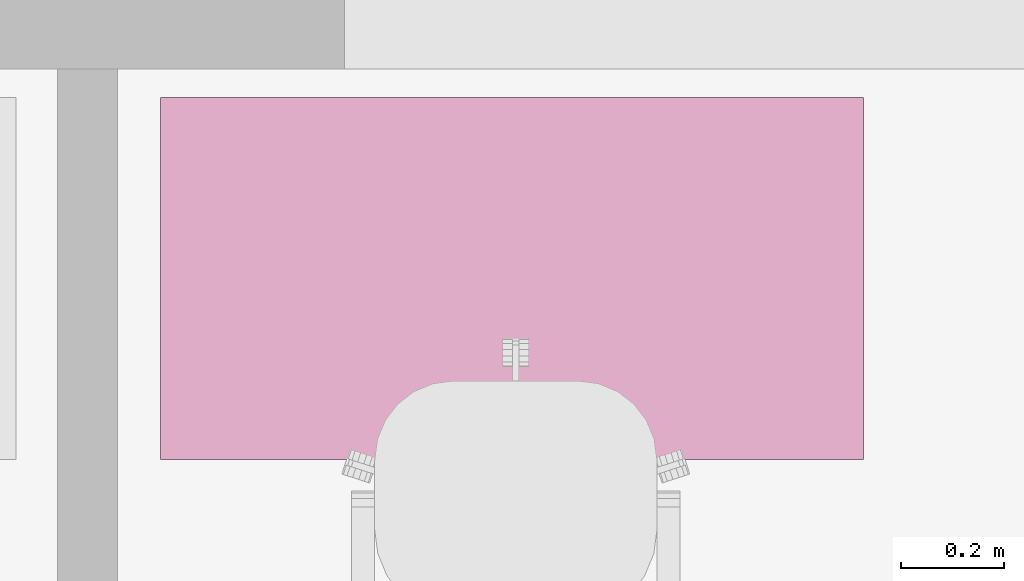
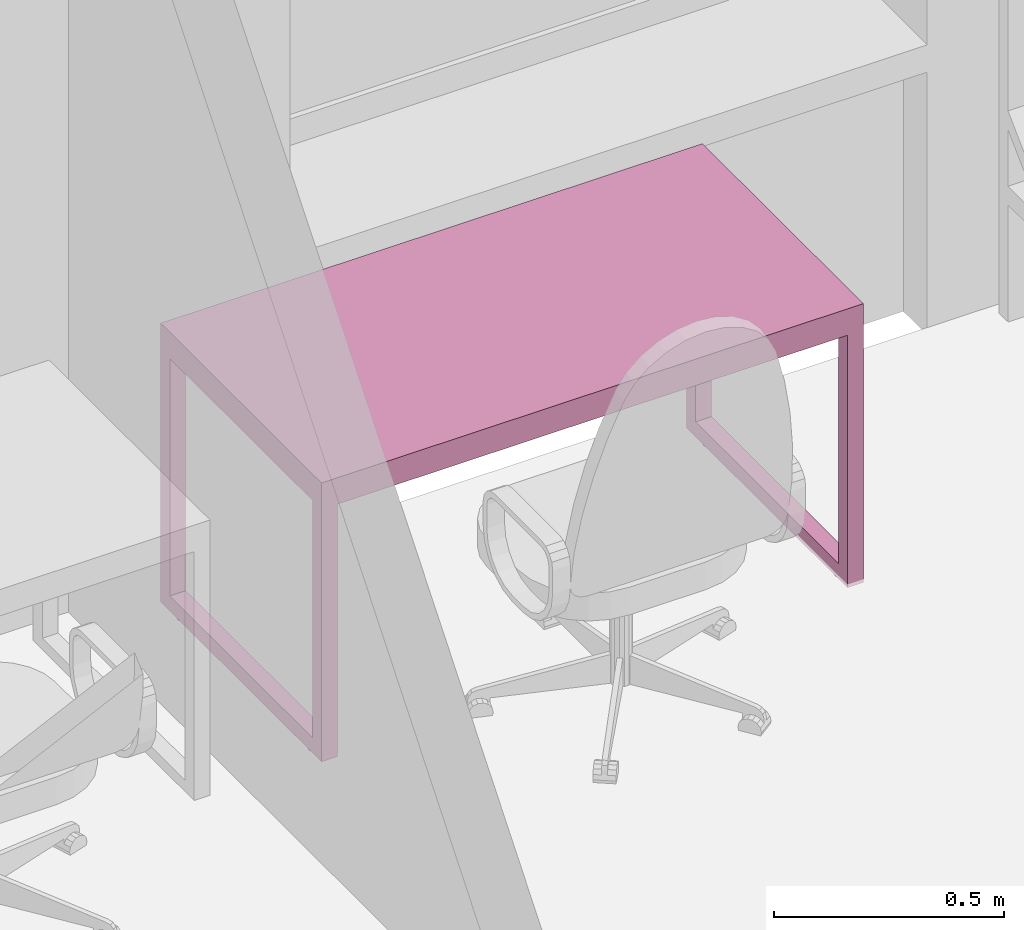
# One storey, part 28 of 48: 1 furnishing.
"""IFC2X3 building model written with IfcOpenShell, lengths in millimetres."""

from ifc_helpers import new_model, entity, si_unit, converted_unit, derived_unit, direction, frame, origin, place, context, subcontext, project, spatial, faceted_brep, source, transform, mapped, material, material_list, type_object, type_shapes, element, save


model = new_model("IFC2X3")

# Units and contexts
model_context = context("Model", 3, precision=0.01, world=origin(), true_north=direction((6.12303176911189e-17, 1.0)))
body_context = subcontext(model_context, "Body", "Model", "MODEL_VIEW")
ifc_project = project(units=[si_unit("LENGTHUNIT", "METRE", prefix="MILLI"), si_unit("AREAUNIT", "SQUARE_METRE"), si_unit("VOLUMEUNIT", "CUBIC_METRE"), converted_unit("PLANEANGLEUNIT", "DEGREE", entity("IfcRatioMeasure", 0.0174532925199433), si_unit("PLANEANGLEUNIT", "RADIAN"), dimensions=[0, 0, 0, 0, 0, 0, 0]), si_unit("MASSUNIT", "GRAM", prefix="KILO"), derived_unit("MASSDENSITYUNIT", [(si_unit("MASSUNIT", "GRAM", prefix="KILO"), 1), (si_unit("LENGTHUNIT", "METRE"), -3)]), si_unit("TIMEUNIT", "SECOND"), si_unit("FREQUENCYUNIT", "HERTZ"), si_unit("THERMODYNAMICTEMPERATUREUNIT", "DEGREE_CELSIUS"), derived_unit("THERMALTRANSMITTANCEUNIT", [(si_unit("MASSUNIT", "GRAM", prefix="KILO"), 1), (si_unit("THERMODYNAMICTEMPERATUREUNIT", "KELVIN"), -1), (si_unit("TIMEUNIT", "SECOND"), -3)]), derived_unit("VOLUMETRICFLOWRATEUNIT", [(si_unit("LENGTHUNIT", "METRE"), 3), (si_unit("TIMEUNIT", "SECOND"), -1)]), si_unit("ELECTRICCURRENTUNIT", "AMPERE"), si_unit("ELECTRICVOLTAGEUNIT", "VOLT"), si_unit("POWERUNIT", "WATT"), si_unit("FORCEUNIT", "NEWTON", prefix="KILO"), si_unit("ILLUMINANCEUNIT", "LUX"), si_unit("LUMINOUSFLUXUNIT", "LUMEN"), si_unit("LUMINOUSINTENSITYUNIT", "CANDELA"), derived_unit("USERDEFINED", [(si_unit("MASSUNIT", "GRAM", prefix="KILO"), -1), (si_unit("LENGTHUNIT", "METRE"), -2), (si_unit("TIMEUNIT", "SECOND"), 3), (si_unit("LUMINOUSFLUXUNIT", "LUMEN"), 1)]), derived_unit("LINEARVELOCITYUNIT", [(si_unit("LENGTHUNIT", "METRE"), 1), (si_unit("TIMEUNIT", "SECOND"), -1)]), si_unit("PRESSUREUNIT", "PASCAL"), derived_unit("USERDEFINED", [(si_unit("LENGTHUNIT", "METRE"), -2), (si_unit("MASSUNIT", "GRAM", prefix="KILO"), 1), (si_unit("TIMEUNIT", "SECOND"), -2)]), derived_unit("LINEARFORCEUNIT", [(si_unit("MASSUNIT", "GRAM", prefix="KILO"), 1), (si_unit("LENGTHUNIT", "METRE"), 1), (si_unit("TIMEUNIT", "SECOND"), -2), (si_unit("LENGTHUNIT", "METRE"), -1)]), derived_unit("PLANARFORCEUNIT", [(si_unit("MASSUNIT", "GRAM", prefix="KILO"), 1), (si_unit("LENGTHUNIT", "METRE"), 1), (si_unit("TIMEUNIT", "SECOND"), -2), (si_unit("LENGTHUNIT", "METRE"), -2)])], contexts=[model_context])

# Site, building, storey, space
site_placement = place(None, origin())
site = spatial("IfcSite", under=ifc_project, at=site_placement, Name="Default", CompositionType="ELEMENT")
building_placement = place(site_placement, origin())
building = spatial("IfcBuilding", under=site, at=building_placement, Name="SMA ARH", CompositionType="ELEMENT")
storey_placement = place(building_placement, frame((0.0, 0.0, 6600.0)))
storey = spatial("IfcBuildingStorey", under=building, at=storey_placement, Name="3 Korrus", CompositionType="ELEMENT", Elevation=6599.99999999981)
space_placement = place(storey_placement, origin())
space = spatial("IfcSpace", under=storey, at=space_placement, Name="3-20/2", CompositionType="ELEMENT", InteriorOrExteriorSpace="INTERNAL")

# Furnishing
ifc_material = material(Name="<Unnamed>")
ifc_material_list = material_list([ifc_material, ifc_material])
furniture_type = type_object("IfcFurnitureType", Name="kirjutuslaud 1360x700mm:kirjutuslaud 1360x700mm", material=ifc_material_list)
shared_shape = source(origin(), body_context, "Body", "Brep", [
    faceted_brep([(680.0, -350.0, 720.0), (680.0, 350.0, 720.0), (680.0, 350.0, 750.0), (680.0, -350.0, 750.0), (-680.0, -350.0, 720.0), (-680.0, -350.0, 750.0), (-680.0, 350.0, 750.0), (-680.0, 350.0, 720.0)], [[[0, 1, 2, 3]], [[4, 5, 6, 7]], [[1, 0, 4, 7]], [[2, 1, 7, 6]], [[3, 2, 6, 5]], [[0, 3, 5, 4]]]),
    faceted_brep([(-640.0, -310.0, 680.0), (-640.0, 310.0, 680.0), (-640.0, 310.0, 720.0), (-640.0, -310.0, 720.0), (-680.0, -350.0, 720.0), (-680.0, 350.0, 720.0), (-680.0, 350.0, 10.0), (-680.0, -350.0, 10.0), (-680.0, 310.0, 680.0), (-680.0, -310.0, 680.0), (-680.0, -310.0, 50.0), (-680.0, 310.0, 50.0), (-640.0, -350.0, 10.0), (-640.0, -350.0, 680.0), (640.0, -350.0, 680.0), (640.0, -350.0, 10.0), (680.0, -350.0, 10.0), (680.0, -350.0, 720.0), (-640.0, 350.0, 10.0), (680.0, 350.0, 720.0), (680.0, 350.0, 10.0), (640.0, 350.0, 10.0), (640.0, 350.0, 680.0), (-640.0, 350.0, 680.0), (640.0, 310.0, 720.0), (640.0, -310.0, 720.0), (-640.0, 310.0, 50.0), (-640.0, -310.0, 50.0), (640.0, -310.0, 680.0), (640.0, 310.0, 680.0), (680.0, 310.0, 680.0), (680.0, 310.0, 50.0), (680.0, -310.0, 50.0), (680.0, -310.0, 680.0), (640.0, -310.0, 50.0), (640.0, 310.0, 50.0)], [[[0, 1, 2, 3]], [[4, 5, 6, 7], [8, 9, 10, 11]], [[4, 7, 12, 13, 14, 15, 16, 17]], [[18, 12, 7, 6]], [[6, 5, 19, 20, 21, 22, 23, 18]], [[19, 5, 4, 17], [2, 24, 25, 3]], [[26, 1, 8, 11]], [[27, 26, 11, 10]], [[0, 27, 10, 9]], [[1, 0, 9, 8]], [[14, 13, 0, 28]], [[24, 2, 1, 29]], [[3, 25, 28, 0]], [[17, 16, 20, 19], [30, 31, 32, 33]], [[21, 15, 14, 28, 34, 35, 29, 22]], [[20, 16, 15, 21]], [[31, 30, 29, 35]], [[32, 31, 35, 34]], [[33, 32, 34, 28]], [[30, 33, 28, 29]], [[29, 28, 25, 24]], [[29, 1, 23, 22]], [[12, 18, 23, 1, 26, 27, 0, 13]]]),
    faceted_brep([(-663.729456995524, -270.466136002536, 0.0), (-659.847171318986, -269.955023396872, 0.0), (-655.964885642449, -270.466136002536, 0.0), (-652.347171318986, -271.964642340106, 0.0), (-649.240569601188, -274.348421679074, 0.0), (-646.85679026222, -277.455023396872, 0.0), (-645.35828392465, -281.072737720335, 0.0), (-644.847171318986, -284.955023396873, 0.0), (-645.35828392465, -288.83730907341, 0.0), (-646.85679026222, -292.455023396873, 0.0), (-649.240569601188, -295.561625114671, 0.0), (-652.347171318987, -297.945404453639, 0.0), (-655.964885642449, -299.443910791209, 0.0), (-659.847171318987, -299.955023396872, 0.0), (-663.729456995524, -299.443910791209, 0.0), (-667.347171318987, -297.945404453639, 0.0), (-670.453773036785, -295.561625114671, 0.0), (-672.837552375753, -292.455023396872, 0.0), (-674.336058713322, -288.83730907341, 0.0), (-674.847171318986, -284.955023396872, 0.0), (-674.336058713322, -281.072737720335, 0.0), (-672.837552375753, -277.455023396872, 0.0), (-670.453773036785, -274.348421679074, 0.0), (-667.347171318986, -271.964642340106, 0.0), (-655.964885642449, -299.443910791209, 10.0), (-652.347171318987, -297.945404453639, 10.0), (-649.240569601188, -295.561625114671, 10.0), (-646.85679026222, -292.455023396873, 10.0), (-645.35828392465, -288.83730907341, 10.0), (-644.847171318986, -284.955023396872, 10.0), (-645.35828392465, -281.072737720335, 10.0), (-646.85679026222, -277.455023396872, 10.0), (-649.240569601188, -274.348421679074, 10.0), (-652.347171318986, -271.964642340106, 10.0), (-655.964885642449, -270.466136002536, 10.0), (-659.847171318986, -269.955023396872, 10.0), (-663.729456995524, -270.466136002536, 10.0), (-667.347171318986, -271.964642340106, 10.0), (-670.453773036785, -274.348421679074, 10.0), (-672.837552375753, -277.455023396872, 10.0), (-674.336058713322, -281.072737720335, 10.0), (-674.847171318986, -284.955023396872, 10.0), (-674.336058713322, -288.83730907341, 10.0), (-672.837552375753, -292.455023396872, 10.0), (-670.453773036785, -295.561625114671, 10.0), (-667.347171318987, -297.945404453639, 10.0), (-663.729456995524, -299.443910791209, 10.0), (-659.847171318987, -299.955023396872, 10.0)], [[[0, 1, 2, 3, 4, 5, 6, 7, 8, 9, 10, 11, 12, 13, 14, 15, 16, 17, 18, 19, 20, 21, 22, 23]], [[24, 25, 26, 27, 28, 29, 30, 31, 32, 33, 34, 35, 36, 37, 38, 39, 40, 41, 42, 43, 44, 45, 46, 47]], [[18, 42, 41, 19]], [[17, 43, 42, 18]], [[45, 44, 16, 15]], [[17, 16, 44, 43]], [[46, 45, 15, 14]], [[47, 46, 14, 13]], [[12, 24, 47, 13]], [[11, 25, 24, 12]], [[27, 26, 10, 9]], [[11, 10, 26, 25]], [[28, 27, 9, 8]], [[29, 28, 8, 7]], [[6, 30, 29, 7]], [[5, 31, 30, 6]], [[33, 32, 4, 3]], [[5, 4, 32, 31]], [[34, 33, 3, 2]], [[35, 34, 2, 1]], [[0, 36, 35, 1]], [[23, 37, 36, 0]], [[39, 38, 22, 21]], [[23, 22, 38, 37]], [[40, 39, 21, 20]], [[41, 40, 20, 19]]]),
    faceted_brep([(-655.964885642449, 270.466136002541, 10.0), (-652.347171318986, 271.964642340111, 10.0), (-649.240569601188, 274.348421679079, 10.0), (-646.85679026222, 277.455023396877, 10.0), (-645.35828392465, 281.07273772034, 10.0), (-644.847171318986, 284.955023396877, 10.0), (-645.35828392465, 288.837309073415, 10.0), (-646.85679026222, 292.455023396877, 10.0), (-649.240569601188, 295.561625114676, 10.0), (-652.347171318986, 297.945404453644, 10.0), (-655.964885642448, 299.443910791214, 10.0), (-659.847171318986, 299.955023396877, 10.0), (-663.729456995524, 299.443910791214, 10.0), (-667.347171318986, 297.945404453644, 10.0), (-670.453773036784, 295.561625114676, 10.0), (-672.837552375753, 292.455023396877, 10.0), (-674.336058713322, 288.837309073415, 10.0), (-674.847171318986, 284.955023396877, 10.0), (-674.336058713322, 281.07273772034, 10.0), (-672.837552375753, 277.455023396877, 10.0), (-670.453773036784, 274.348421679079, 10.0), (-667.347171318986, 271.964642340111, 10.0), (-663.729456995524, 270.466136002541, 10.0), (-659.847171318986, 269.955023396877, 10.0), (-655.964885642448, 299.443910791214, 0.0), (-652.347171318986, 297.945404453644, 0.0), (-649.240569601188, 295.561625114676, 0.0), (-646.85679026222, 292.455023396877, 0.0), (-645.35828392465, 288.837309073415, 0.0), (-644.847171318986, 284.955023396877, 0.0), (-645.35828392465, 281.07273772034, 0.0), (-646.85679026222, 277.455023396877, 0.0), (-649.240569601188, 274.348421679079, 0.0), (-652.347171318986, 271.964642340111, 0.0), (-655.964885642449, 270.466136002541, 0.0), (-659.847171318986, 269.955023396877, 0.0), (-663.729456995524, 270.466136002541, 0.0), (-667.347171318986, 271.964642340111, 0.0), (-670.453773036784, 274.348421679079, 0.0), (-672.837552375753, 277.455023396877, 0.0), (-674.336058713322, 281.07273772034, 0.0), (-674.847171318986, 284.955023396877, 0.0), (-674.336058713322, 288.837309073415, 0.0), (-672.837552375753, 292.455023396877, 0.0), (-670.453773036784, 295.561625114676, 0.0), (-667.347171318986, 297.945404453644, 0.0), (-663.729456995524, 299.443910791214, 0.0), (-659.847171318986, 299.955023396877, 0.0)], [[[0, 1, 2, 3, 4, 5, 6, 7, 8, 9, 10, 11, 12, 13, 14, 15, 16, 17, 18, 19, 20, 21, 22, 23]], [[24, 25, 26, 27, 28, 29, 30, 31, 32, 33, 34, 35, 36, 37, 38, 39, 40, 41, 42, 43, 44, 45, 46, 47]], [[40, 18, 17, 41]], [[39, 19, 18, 40]], [[21, 20, 38, 37]], [[39, 38, 20, 19]], [[22, 21, 37, 36]], [[23, 22, 36, 35]], [[34, 0, 23, 35]], [[33, 1, 0, 34]], [[3, 2, 32, 31]], [[33, 32, 2, 1]], [[4, 3, 31, 30]], [[5, 4, 30, 29]], [[28, 6, 5, 29]], [[27, 7, 6, 28]], [[9, 8, 26, 25]], [[27, 26, 8, 7]], [[10, 9, 25, 24]], [[11, 10, 24, 47]], [[46, 12, 11, 47]], [[45, 13, 12, 46]], [[15, 14, 44, 43]], [[45, 44, 14, 13]], [[16, 15, 43, 42]], [[17, 16, 42, 41]]]),
    faceted_brep([(656.270543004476, -270.466136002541, 0.0), (660.152828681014, -269.955023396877, 0.0), (664.035114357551, -270.466136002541, 0.0), (667.652828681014, -271.96464234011, 0.0), (670.759430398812, -274.348421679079, 0.0), (673.14320973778, -277.455023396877, 0.0), (674.64171607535, -281.072737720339, 0.0), (675.152828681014, -284.955023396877, 0.0), (674.64171607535, -288.837309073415, 0.0), (673.14320973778, -292.455023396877, 0.0), (670.759430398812, -295.561625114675, 0.0), (667.652828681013, -297.945404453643, 0.0), (664.035114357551, -299.443910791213, 0.0), (660.152828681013, -299.955023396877, 0.0), (656.270543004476, -299.443910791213, 0.0), (652.652828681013, -297.945404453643, 0.0), (649.546226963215, -295.561625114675, 0.0), (647.162447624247, -292.455023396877, 0.0), (645.663941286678, -288.837309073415, 0.0), (645.152828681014, -284.955023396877, 0.0), (645.663941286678, -281.072737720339, 0.0), (647.162447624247, -277.455023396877, 0.0), (649.546226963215, -274.348421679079, 0.0), (652.652828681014, -271.96464234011, 0.0), (664.035114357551, -299.443910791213, 10.0), (667.652828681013, -297.945404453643, 10.0), (670.759430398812, -295.561625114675, 10.0), (673.14320973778, -292.455023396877, 10.0), (674.64171607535, -288.837309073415, 10.0), (675.152828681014, -284.955023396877, 10.0), (674.64171607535, -281.072737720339, 10.0), (673.14320973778, -277.455023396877, 10.0), (670.759430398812, -274.348421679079, 10.0), (667.652828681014, -271.96464234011, 10.0), (664.035114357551, -270.466136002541, 10.0), (660.152828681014, -269.955023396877, 10.0), (656.270543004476, -270.466136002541, 10.0), (652.652828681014, -271.96464234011, 10.0), (649.546226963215, -274.348421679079, 10.0), (647.162447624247, -277.455023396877, 10.0), (645.663941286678, -281.072737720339, 10.0), (645.152828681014, -284.955023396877, 10.0), (645.663941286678, -288.837309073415, 10.0), (647.162447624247, -292.455023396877, 10.0), (649.546226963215, -295.561625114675, 10.0), (652.652828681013, -297.945404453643, 10.0), (656.270543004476, -299.443910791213, 10.0), (660.152828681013, -299.955023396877, 10.0)], [[[0, 1, 2, 3, 4, 5, 6, 7, 8, 9, 10, 11, 12, 13, 14, 15, 16, 17, 18, 19, 20, 21, 22, 23]], [[24, 25, 26, 27, 28, 29, 30, 31, 32, 33, 34, 35, 36, 37, 38, 39, 40, 41, 42, 43, 44, 45, 46, 47]], [[18, 42, 41, 19]], [[17, 43, 42, 18]], [[45, 44, 16, 15]], [[17, 16, 44, 43]], [[46, 45, 15, 14]], [[47, 46, 14, 13]], [[12, 24, 47, 13]], [[11, 25, 24, 12]], [[27, 26, 10, 9]], [[11, 10, 26, 25]], [[28, 27, 9, 8]], [[29, 28, 8, 7]], [[6, 30, 29, 7]], [[5, 31, 30, 6]], [[33, 32, 4, 3]], [[5, 4, 32, 31]], [[34, 33, 3, 2]], [[35, 34, 2, 1]], [[0, 36, 35, 1]], [[23, 37, 36, 0]], [[39, 38, 22, 21]], [[23, 22, 38, 37]], [[40, 39, 21, 20]], [[41, 40, 20, 19]]]),
    faceted_brep([(664.035114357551, 270.466136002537, 10.0), (667.652828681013, 271.964642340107, 10.0), (670.759430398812, 274.348421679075, 10.0), (673.14320973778, 277.455023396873, 10.0), (674.64171607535, 281.072737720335, 10.0), (675.152828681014, 284.955023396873, 10.0), (674.64171607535, 288.837309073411, 10.0), (673.14320973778, 292.455023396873, 10.0), (670.759430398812, 295.561625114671, 10.0), (667.652828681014, 297.94540445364, 10.0), (664.035114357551, 299.443910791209, 10.0), (660.152828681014, 299.955023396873, 10.0), (656.270543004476, 299.443910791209, 10.0), (652.652828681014, 297.94540445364, 10.0), (649.546226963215, 295.561625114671, 10.0), (647.162447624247, 292.455023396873, 10.0), (645.663941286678, 288.837309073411, 10.0), (645.152828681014, 284.955023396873, 10.0), (645.663941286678, 281.072737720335, 10.0), (647.162447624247, 277.455023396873, 10.0), (649.546226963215, 274.348421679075, 10.0), (652.652828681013, 271.964642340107, 10.0), (656.270543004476, 270.466136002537, 10.0), (660.152828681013, 269.955023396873, 10.0), (664.035114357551, 299.443910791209, 0.0), (667.652828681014, 297.94540445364, 0.0), (670.759430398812, 295.561625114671, 0.0), (673.14320973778, 292.455023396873, 0.0), (674.64171607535, 288.837309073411, 0.0), (675.152828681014, 284.955023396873, 0.0), (674.64171607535, 281.072737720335, 0.0), (673.14320973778, 277.455023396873, 0.0), (670.759430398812, 274.348421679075, 0.0), (667.652828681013, 271.964642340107, 0.0), (664.035114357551, 270.466136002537, 0.0), (660.152828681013, 269.955023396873, 0.0), (656.270543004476, 270.466136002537, 0.0), (652.652828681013, 271.964642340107, 0.0), (649.546226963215, 274.348421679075, 0.0), (647.162447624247, 277.455023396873, 0.0), (645.663941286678, 281.072737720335, 0.0), (645.152828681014, 284.955023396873, 0.0), (645.663941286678, 288.837309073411, 0.0), (647.162447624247, 292.455023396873, 0.0), (649.546226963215, 295.561625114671, 0.0), (652.652828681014, 297.94540445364, 0.0), (656.270543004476, 299.443910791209, 0.0), (660.152828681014, 299.955023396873, 0.0)], [[[0, 1, 2, 3, 4, 5, 6, 7, 8, 9, 10, 11, 12, 13, 14, 15, 16, 17, 18, 19, 20, 21, 22, 23]], [[24, 25, 26, 27, 28, 29, 30, 31, 32, 33, 34, 35, 36, 37, 38, 39, 40, 41, 42, 43, 44, 45, 46, 47]], [[40, 18, 17, 41]], [[39, 19, 18, 40]], [[21, 20, 38, 37]], [[39, 38, 20, 19]], [[22, 21, 37, 36]], [[23, 22, 36, 35]], [[34, 0, 23, 35]], [[33, 1, 0, 34]], [[3, 2, 32, 31]], [[33, 32, 2, 1]], [[4, 3, 31, 30]], [[5, 4, 30, 29]], [[28, 6, 5, 29]], [[27, 7, 6, 28]], [[9, 8, 26, 25]], [[27, 26, 8, 7]], [[10, 9, 25, 24]], [[11, 10, 24, 47]], [[46, 12, 11, 47]], [[45, 13, 12, 46]], [[15, 14, 44, 43]], [[45, 44, 14, 13]], [[16, 15, 43, 42]], [[17, 16, 42, 41]]]),
])
type_shapes(furniture_type, [shared_shape])
furnishing_placement = place(space_placement, frame((6099.0, 12091.2030428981, 0.0)))
element("IfcFurnishingElement", 1, at=furnishing_placement, inside=space, type_object=furniture_type, Name="kirjutuslaud 1360x700mm:kirjutuslaud 1360x700mm", ObjectType="kirjutuslaud 1360x700mm:kirjutuslaud 1360x700mm", context=body_context, shape_type="MappedRepresentation", body=[
    mapped(shared_shape, transform((0.0, 0.0, 0.0), scale=1.0)),
])

save(model, "model.ifc")
